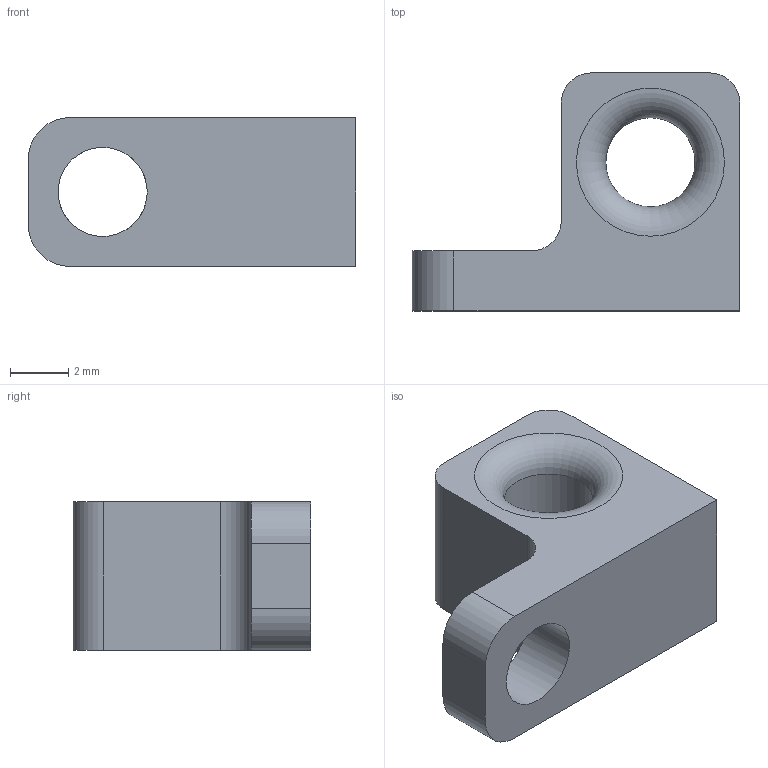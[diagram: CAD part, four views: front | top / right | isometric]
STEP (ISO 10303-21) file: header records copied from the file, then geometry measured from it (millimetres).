
FILE_DESCRIPTION(/* description */ ('STEP AP242 Edition 2','CAx-IF Rec.Pracs.---Representation and Presentation of Product Manufacturing Information (PMI)---4.0---2014-10-13','CAx-IF Rec.Pracs.---3D Tessellated Geometry---0.4---2014-09-14','2;1','CAx-IF Rec.Pracs.---User Defined Attributes---1.5---2016-08-15'),/* implementation_level */ '2;1');
FILE_NAME(/* name */ 'Assembly 1 - Part 13 (1)',/* time_stamp */ '2026-06-19T18:21:09Z',/* author */ (''),/* organization */ (''),/* preprocessor_version */ 'ST-DEVELOPER v20',/* originating_system */ 'ONSHAPE BY PTC INC, 1.216',/* authorisation */ ' ');
FILE_SCHEMA (('AP242_MANAGED_MODEL_BASED_3D_ENGINEERING_MIM_LF { 1 0 10303 442 3 1 4 }'));
Length unit declared in the file: metre
Products named in the file (1): Part 13
Bounding box: 11.24 x 8.17 x 5.11 mm (x, y, z)
Volume: 248.8 mm3; surface area: 339.9 mm2
Topology: 1 solids, 1 shells, 17 faces, 46 edges, 30 vertices
Faces by surface type: plane 8, cylinder 7, torus 2
Full cylindrical faces by diameter (mm): 3.06 x2
Entity records: 542 total; most frequent: DIRECTION 92, CARTESIAN_POINT 91, ORIENTED_EDGE 82, EDGE_CURVE 41, AXIS2_PLACEMENT_3D 34, VERTEX_POINT 29, LINE 24, VECTOR 24
